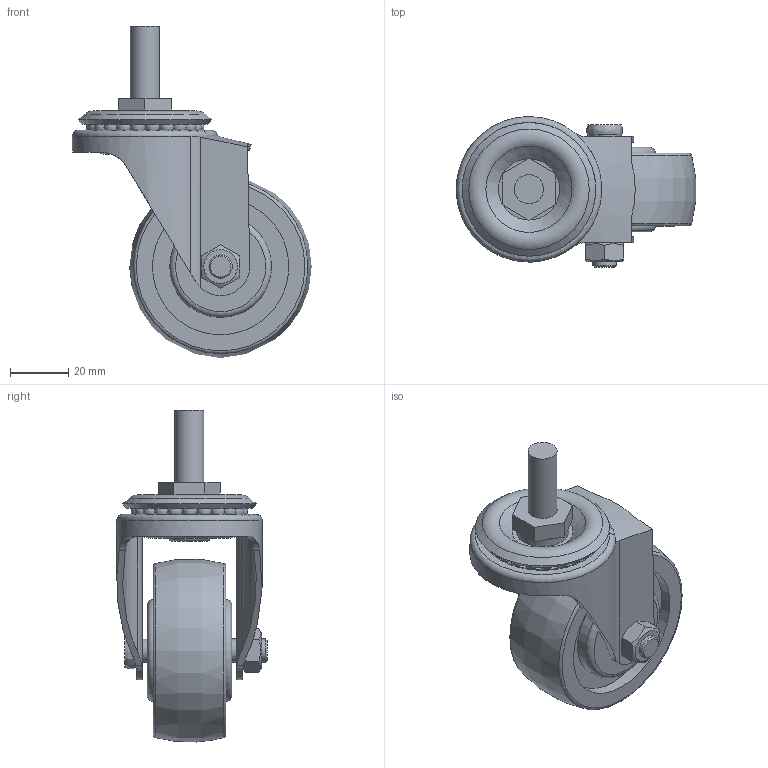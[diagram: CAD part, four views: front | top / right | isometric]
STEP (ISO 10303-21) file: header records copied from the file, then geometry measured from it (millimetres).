
FILE_DESCRIPTION(/* description */ (''),/* implementation_level */ '2;1');
FILE_NAME(/* name */ '15A09_2.5_F.stp',/* time_stamp */ '2022-10-06T14:10:40+08:00',/* author */ (''),/* organization */ (''),/* preprocessor_version */ 'ST-DEVELOPER v14',/* originating_system */ 'SIEMENS PLM Software NX 8.0',/* authorisation */ '');
FILE_SCHEMA (('AUTOMOTIVE_DESIGN { 1 0 10303 214 3 1 1 1 }'));
Length unit declared in the file: millimetre
Products named in the file (1): 15A09_2.5_F
Bounding box: 82.32 x 51.75 x 114.14 mm (x, y, z)
Volume: 8102.4 mm3; surface area: 42146.4 mm2
Topology: 3 solids, 4 shells, 455 faces, 1499 edges, 992 vertices
Faces by surface type: plane 224, torus 80, cylinder 64, sphere 63, cone 22, bspline 2
Full cylindrical faces by diameter (mm): 8 x3, 8.2 x1, 8.3 x2, 10 x2, 10.2 x1, 10.5 x1, 10.6 x1, 12 x2, 17 x1, 18 x1, 23 x2, 29.5 x2, 34 x2, 35 x2, 41 x1, 46.893 x2
Entity records: 22611 total; most frequent: CARTESIAN_POINT 11370, ORIENTED_EDGE 2524, DIRECTION 1948, EDGE_CURVE 1262, VERTEX_POINT 875, AXIS2_PLACEMENT_3D 822, EDGE_LOOP 651, B_SPLINE_CURVE_WITH_KNOTS 590
